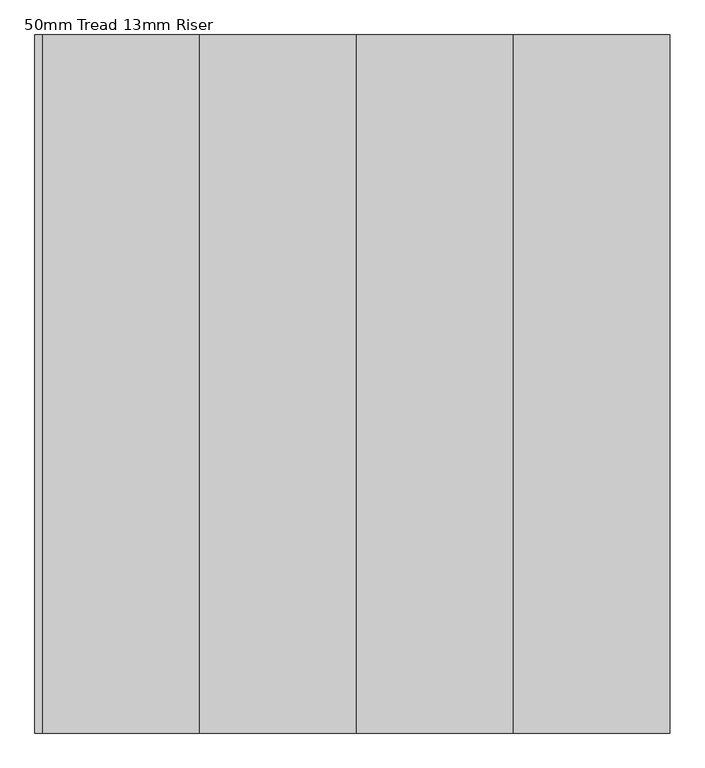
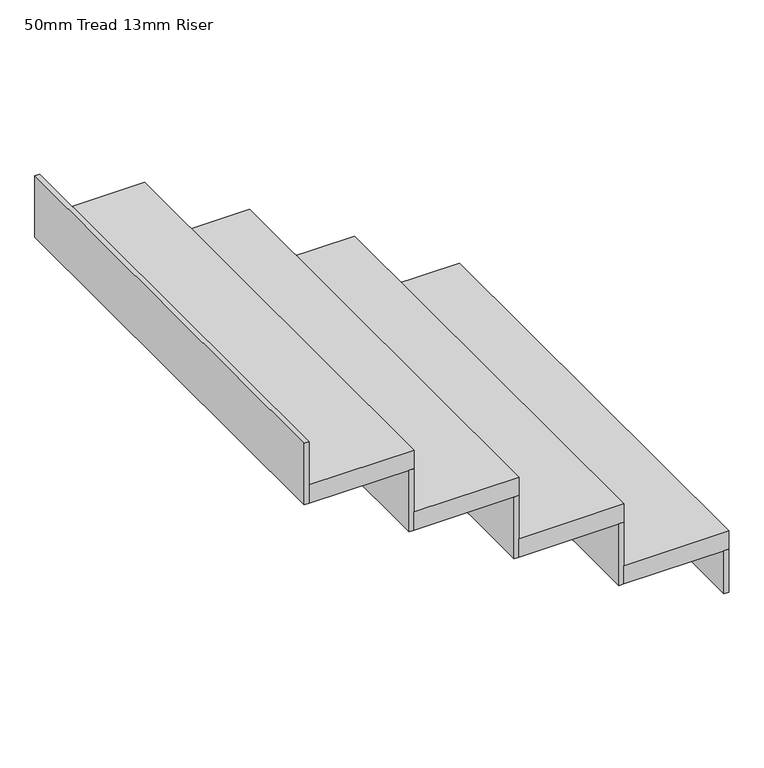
"""IFC4 building model written with IfcOpenShell, lengths in millimetres: stair flight geometry, 50mm Tread 13mm Riser."""

import ifcopenshell
import ifcopenshell.guid

model = None  # the IFC model being written
_history = None  # IfcOwnerHistory: only IFC2X3 demands one
_inside = {}  # id of a spatial element -> (the spatial element, [elements in it])
_under = {}  # id of a project, library or spatial element -> (it, [spatial elements below it])
_declared = {}  # id of a project -> (the project, [libraries it declares])
_typed = {}  # id of a type object -> (the type object, [elements of that type])
_made_of = {}  # id of a material, layer set ... -> (it, [elements and type objects made of it])


def new_model(schema):
    """Start an empty IFC model of exactly this schema.

    Asked for "IFC4X3", IfcOpenShell would pick the latest addendum, in which some entities
    have other attributes; the version numbers below select the first issue.
    IFC2X3 requires an IfcOwnerHistory on every rooted entity: one is made here for all.
    """
    global model, _history
    if schema == "IFC4X3":
        model = ifcopenshell.file(schema_version=(4, 3, 0, 0))
    else:
        model = ifcopenshell.file(schema=schema)
    _inside.clear()
    _under.clear()
    _declared.clear()
    _typed.clear()
    _made_of.clear()
    _history = None
    if model.schema == "IFC2X3":
        org = make("IfcOrganization", Name="unknown")
        user = make(
            "IfcPersonAndOrganization",
            ThePerson=make("IfcPerson", FamilyName="unknown"),
            TheOrganization=org,
        )
        app = make(
            "IfcApplication",
            ApplicationDeveloper=org,
            Version="unknown",
            ApplicationFullName="unknown",
            ApplicationIdentifier="unknown",
        )
        _history = make(
            "IfcOwnerHistory",
            OwningUser=user,
            OwningApplication=app,
            ChangeAction="ADDED",
            CreationDate=0,
        )
    return model


def make(cls, **values):
    """One entity of the class cls with the attributes given. An attribute that is None is left unset."""
    return model.create_entity(
        cls, **{name: value for name, value in values.items() if value is not None}
    )


def rooted(cls, **values):
    """An entity with a GlobalId (a new one), such as an element, a storey or a relation."""
    return make(cls, GlobalId=ifcopenshell.guid.new(), OwnerHistory=_history, **values)


def si_unit(unit_type, name, prefix=None):
    """IfcSIUnit, for example si_unit("LENGTHUNIT", "METRE", prefix="MILLI")."""
    return make("IfcSIUnit", UnitType=unit_type, Prefix=prefix, Name=name)


def assignment(units):
    """IfcUnitAssignment: the units of a project."""
    return None if units is None else make("IfcUnitAssignment", Units=units)


def point(xyz):
    """IfcCartesianPoint."""
    return None if xyz is None else make("IfcCartesianPoint", Coordinates=xyz)


def direction(xyz):
    """IfcDirection."""
    return None if xyz is None else make("IfcDirection", DirectionRatios=xyz)


def frame(location, z_axis=None, x_axis=None):
    """IfcAxis2Placement3D, a coordinate frame: its origin and axes. An axis left out is left unset."""
    return make(
        "IfcAxis2Placement3D",
        Location=point(location),
        Axis=direction(z_axis),
        RefDirection=direction(x_axis),
    )


def origin():
    """The frame at (0, 0, 0) with its axes left unset."""
    return frame((0.0, 0.0, 0.0))


def place(relative_to, where):
    """IfcLocalPlacement: puts the frame where relative to a parent placement (None: the world)."""
    return make(
        "IfcLocalPlacement", PlacementRelTo=relative_to, RelativePlacement=where
    )


def context(
    kind, dimensions, precision=None, world=None, true_north=None, identifier=None
):
    """IfcGeometricRepresentationContext, for example the 3D "Model" context."""
    return make(
        "IfcGeometricRepresentationContext",
        ContextIdentifier=identifier,
        ContextType=kind,
        CoordinateSpaceDimension=dimensions,
        Precision=precision,
        WorldCoordinateSystem=world,
        TrueNorth=true_north,
    )


def project(units=None, contexts=None):
    """IfcProject with its units and contexts."""
    return rooted(
        "IfcProject",
        Name="project",
        RepresentationContexts=contexts,
        UnitsInContext=assignment(units),
    )


def spatial(cls, under=None, at=None, **own):
    """A site, building, storey or space (cls), placed at a placement, below another one or the project."""
    s = rooted(cls, ObjectPlacement=at, **own)
    if under is not None:
        _under.setdefault(under.id(), (under, []))[1].append(s)
    return s


def polyline(points):
    """IfcPolyline through the points."""
    return make("IfcPolyline", Points=[point(p) for p in points])


def outline(outer, holes=None, kind="AREA"):
    """IfcArbitraryClosedProfileDef: a profile drawn as a closed curve; with holes, ...WithVoids."""
    if holes is None:
        return make("IfcArbitraryClosedProfileDef", ProfileType=kind, OuterCurve=outer)
    return make(
        "IfcArbitraryProfileDefWithVoids",
        ProfileType=kind,
        OuterCurve=outer,
        InnerCurves=holes,
    )


def extrude(swept, where, along, depth):
    """IfcExtrudedAreaSolid: the profile swept, set in the frame where, extruded along a direction by depth."""
    return make(
        "IfcExtrudedAreaSolid",
        SweptArea=swept,
        Position=where,
        ExtrudedDirection=direction(along),
        Depth=depth,
    )


def shape(context_of_items, identifier, shape_type, items):
    """IfcShapeRepresentation: the items that make up one representation, for example the "Body"."""
    return make(
        "IfcShapeRepresentation",
        ContextOfItems=context_of_items,
        RepresentationIdentifier=identifier,
        RepresentationType=shape_type,
        Items=items,
    )


def source(mapping_origin, context_of_items, identifier, shape_type, items):
    """IfcRepresentationMap: a shape defined once, which mapped items show again and again."""
    return make(
        "IfcRepresentationMap",
        MappingOrigin=mapping_origin,
        MappedRepresentation=shape(context_of_items, identifier, shape_type, items),
    )


def transform(
    local_origin,
    x_axis=None,
    y_axis=None,
    z_axis=None,
    scale=None,
    scale2=None,
    scale3=None,
    uniform=True,
):
    """IfcCartesianTransformationOperator3D, or its non-uniform kind. x_axis, y_axis, z_axis: its Axis1, 2, 3."""
    if uniform:
        return make(
            "IfcCartesianTransformationOperator3D",
            Axis1=direction(x_axis),
            Axis2=direction(y_axis),
            LocalOrigin=point(local_origin),
            Scale=scale,
            Axis3=direction(z_axis),
        )
    return make(
        "IfcCartesianTransformationOperator3DnonUniform",
        Axis1=direction(x_axis),
        Axis2=direction(y_axis),
        LocalOrigin=point(local_origin),
        Scale=scale,
        Axis3=direction(z_axis),
        Scale2=scale2,
        Scale3=scale3,
    )


def mapped(mapping_source, mapping_target):
    """IfcMappedItem: shows the shape of a source again, moved by a transform."""
    return make(
        "IfcMappedItem", MappingSource=mapping_source, MappingTarget=mapping_target
    )


def made_of(thing, what):
    """Note that an element or type object is made of a material, layer set ...; save() writes the relation."""
    if what is not None:
        _made_of.setdefault(what.id(), (what, []))[1].append(thing)
    return thing


def element(
    cls,
    number,
    at=None,
    inside=None,
    cuts=None,
    type_object=None,
    material=None,
    context=None,
    identifier="Body",
    shape_type=None,
    held_by="IfcProductDefinitionShape",
    body=None,
    shapes=None,
    **own,
):
    """One element of the class cls, such as IfcWall. Its Tag is "e" and its number.

    at: its placement. inside: the storey or other place that contains it. cuts: it is an
    opening in that element (IfcRelVoidsElement). A single representation is given by context,
    identifier, shape_type and body (its items); several are given by shapes. held_by: the class
    of the entity that holds the representations. save() writes the other relations.
    """
    e = rooted(cls, Tag="e%d" % number, ObjectPlacement=at, **own)
    if body is not None:
        shapes = [shape(context, identifier, shape_type, body)]
    if shapes is not None:
        e.Representation = make(held_by, Representations=shapes)
    if inside is not None:
        _inside.setdefault(inside.id(), (inside, []))[1].append(e)
    if cuts is not None:
        rooted(
            "IfcRelVoidsElement", RelatingBuildingElement=cuts, RelatedOpeningElement=e
        )
    if type_object is not None:
        _typed.setdefault(type_object.id(), (type_object, []))[1].append(e)
    return made_of(e, material)


def aggregate(whole, parts):
    """IfcRelAggregates: a whole, such as a stair, and the parts it consists of."""
    return rooted("IfcRelAggregates", RelatingObject=whole, RelatedObjects=parts)


def save(model, path):
    """Write the relations noted so far, then the file.

    IfcRelAggregates (storeys below a building ...), IfcRelContainedInSpatialStructure (elements
    in a storey), IfcRelDefinesByType, IfcRelAssociatesMaterial and IfcRelDeclares: one each for
    every whole, place, type object, material and project.
    """
    for whole, parts in _under.values():
        aggregate(whole, parts)
    for where, things in _inside.values():
        rooted(
            "IfcRelContainedInSpatialStructure",
            RelatedElements=things,
            RelatingStructure=where,
        )
    for kind, things in _typed.values():
        rooted("IfcRelDefinesByType", RelatedObjects=things, RelatingType=kind)
    for what, things in _made_of.values():
        rooted("IfcRelAssociatesMaterial", RelatedObjects=things, RelatingMaterial=what)
    for by, libraries in _declared.values():
        rooted("IfcRelDeclares", RelatingContext=by, RelatedDefinitions=libraries)
    model.write(path)


def stair_flight_50mm_tread_13mm_riser_1580f58f(model_context):
    return source(origin(), model_context, "Body", "SweptSolid", [
        extrude(outline(polyline([(-97830.3719448, 38178.2777512), (-97817.8719448, 38178.2777512), (-97817.8719448, 36978.2777512), (-97830.3719448, 36978.2777512), (-97830.3719448, 38178.2777512)])), frame((0.0, 0.0, 42810.0), z_axis=(0.0, 0.0, 1.0), x_axis=(1.0, 0.0, 0.0)), (0.0, 0.0, 1.0), 117.5),
        extrude(outline(polyline([(-98087.8719448, 36978.2777512), (-98087.8719448, 38178.2777512), (-97817.8719448, 38178.2777512), (-97817.8719448, 36978.2777512), (-98087.8719448, 36978.2777512)])), frame((0.0, 0.0, 42927.5), z_axis=(0.0, 0.0, 1.0), x_axis=(1.0, 0.0, 0.0)), (0.0, 0.0, 1.0), 50.0),
        extrude(outline(polyline([(-98100.3719448, 38178.2777512), (-98087.8719448, 38178.2777512), (-98087.8719448, 36978.2777512), (-98100.3719448, 36978.2777512), (-98100.3719448, 38178.2777512)])), frame((0.0, 0.0, 42927.5), z_axis=(0.0, 0.0, 1.0), x_axis=(1.0, 0.0, 0.0)), (0.0, 0.0, 1.0), 167.5),
        extrude(outline(polyline([(-98357.8719448, 36978.2777512), (-98357.8719448, 38178.2777512), (-98087.8719448, 38178.2777512), (-98087.8719448, 36978.2777512), (-98357.8719448, 36978.2777512)])), frame((0.0, 0.0, 43095.0), z_axis=(0.0, 0.0, 1.0), x_axis=(1.0, 0.0, 0.0)), (0.0, 0.0, 1.0), 50.0),
        extrude(outline(polyline([(-98370.3719448, 38178.2777512), (-98357.8719448, 38178.2777512), (-98357.8719448, 36978.2777512), (-98370.3719448, 36978.2777512), (-98370.3719448, 38178.2777512)])), frame((0.0, 0.0, 43095.0), z_axis=(0.0, 0.0, 1.0), x_axis=(1.0, 0.0, 0.0)), (0.0, 0.0, 1.0), 167.5),
        extrude(outline(polyline([(-98627.8719448, 36978.2777512), (-98627.8719448, 38178.2777512), (-98357.8719448, 38178.2777512), (-98357.8719448, 36978.2777512), (-98627.8719448, 36978.2777512)])), frame((0.0, 0.0, 43262.5), z_axis=(0.0, 0.0, 1.0), x_axis=(1.0, 0.0, 0.0)), (0.0, 0.0, 1.0), 50.0),
        extrude(outline(polyline([(-98640.3719448, 38178.2777512), (-98627.8719448, 38178.2777512), (-98627.8719448, 36978.2777512), (-98640.3719448, 36978.2777512), (-98640.3719448, 38178.2777512)])), frame((0.0, 0.0, 43262.5), z_axis=(0.0, 0.0, 1.0), x_axis=(1.0, 0.0, 0.0)), (0.0, 0.0, 1.0), 167.5),
        extrude(outline(polyline([(-98910.3719448, 38178.2777512), (-98897.8719448, 38178.2777512), (-98897.8719448, 36978.2777512), (-98910.3719448, 36978.2777512), (-98910.3719448, 38178.2777512)])), frame((0.0, 0.0, 43430.0), z_axis=(0.0, 0.0, 1.0), x_axis=(1.0, 0.0, 0.0)), (0.0, 0.0, 1.0), 167.5),
        extrude(outline(polyline([(-98897.8719448, 36978.2777512), (-98897.8719448, 38178.2777512), (-98627.8719448, 38178.2777512), (-98627.8719448, 36978.2777512), (-98897.8719448, 36978.2777512)])), frame((0.0, 0.0, 43430.0), z_axis=(0.0, 0.0, 1.0), x_axis=(1.0, 0.0, 0.0)), (0.0, 0.0, 1.0), 50.0),
    ])


if __name__ == "__main__":
    model = new_model("IFC4")
    model_context = context("Model", 3, world=origin())
    ifc_project = project(units=[si_unit("LENGTHUNIT", "METRE", prefix="MILLI")], contexts=[model_context])
    site = spatial("IfcSite", under=ifc_project)
    building = spatial("IfcBuilding", under=site)
    placement = place(None, origin())
    stair_flight_50mm_tread_13mm_riser_shape = stair_flight_50mm_tread_13mm_riser_1580f58f(model_context)
    element("IfcStairFlight", 1, ObjectType="50mm Tread 13mm Riser", at=placement, inside=building, context=model_context, shape_type="MappedRepresentation", body=[
        mapped(stair_flight_50mm_tread_13mm_riser_shape, transform((0.0, 0.0, 0.0), x_axis=(1.0, 0.0, 0.0), y_axis=(0.0, 1.0, 0.0), z_axis=(0.0, 0.0, 1.0))),
    ])
    save(model, "model.ifc")
